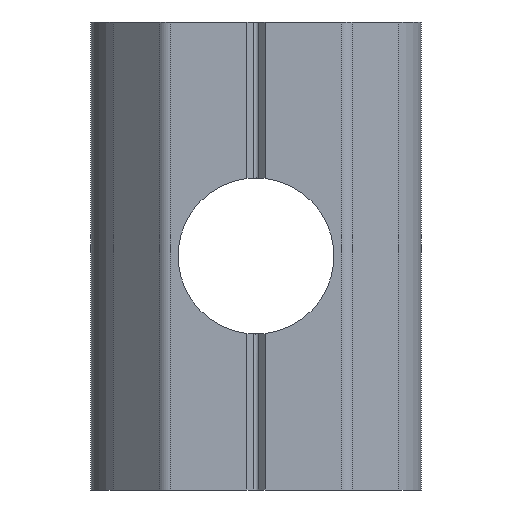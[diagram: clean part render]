
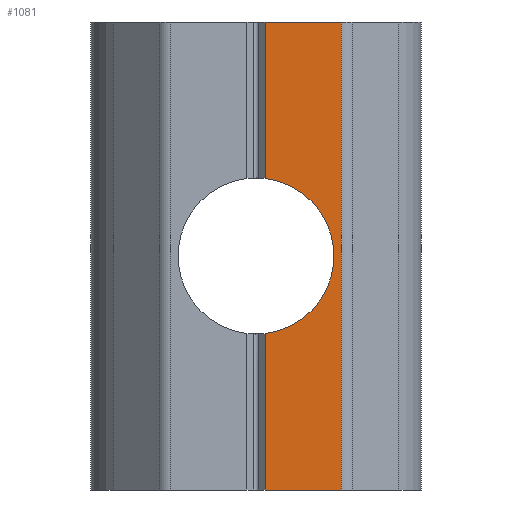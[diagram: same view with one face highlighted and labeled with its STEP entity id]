
A CAD part, front view. The second image highlights one B-rep face of the part: STEP entity #1081.
In plain terms, the highlighted planar face has unit normal (0, -1, 0).
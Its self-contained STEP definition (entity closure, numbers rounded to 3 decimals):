
#28 = LINE ( 'NONE', #1379, #950 ) ;
#35 = DIRECTION ( 'NONE',  ( 0., 0., -1. ) ) ;
#45 = CIRCLE ( 'NONE', #983, 2.5 ) ;
#51 = DIRECTION ( 'NONE',  ( 0., -1., 0. ) ) ;
#83 = EDGE_CURVE ( 'NONE', #115, #169, #757, .T. ) ;
#97 = VECTOR ( 'NONE', #957, 1000. ) ;
#115 = VERTEX_POINT ( 'NONE', #1304 ) ;
#169 = VERTEX_POINT ( 'NONE', #353 ) ;
#211 = LINE ( 'NONE', #796, #512 ) ;
#256 = CARTESIAN_POINT ( 'NONE',  ( 0.291, 0., 16. ) ) ;
#280 = VERTEX_POINT ( 'NONE', #256 ) ;
#318 = VERTEX_POINT ( 'NONE', #1109 ) ;
#330 = DIRECTION ( 'NONE',  ( 0., 0., -1. ) ) ;
#351 = EDGE_CURVE ( 'NONE', #115, #318, #45, .T. ) ;
#353 = CARTESIAN_POINT ( 'NONE',  ( 0.291, 0., 1. ) ) ;
#388 = ORIENTED_EDGE ( 'NONE', *, *, #807, .T. ) ;
#419 = VECTOR ( 'NONE', #330, 1000. ) ;
#452 = EDGE_CURVE ( 'NONE', #169, #976, #1101, .T. ) ;
#464 = LINE ( 'NONE', #1260, #419 ) ;
#512 = VECTOR ( 'NONE', #1492, 1000. ) ;
#521 = AXIS2_PLACEMENT_3D ( 'NONE', #781, #51, #904 ) ;
#570 = EDGE_CURVE ( 'NONE', #280, #1335, #28, .T. ) ;
#651 = ORIENTED_EDGE ( 'NONE', *, *, #452, .T. ) ;
#728 = FACE_OUTER_BOUND ( 'NONE', #1364, .T. ) ;
#729 = ORIENTED_EDGE ( 'NONE', *, *, #570, .F. ) ;
#757 = LINE ( 'NONE', #1527, #97 ) ;
#764 = DIRECTION ( 'NONE',  ( 0., -1., 0. ) ) ;
#781 = CARTESIAN_POINT ( 'NONE',  ( -2.936, 0., 1. ) ) ;
#796 = CARTESIAN_POINT ( 'NONE',  ( 2.728, 0., 1. ) ) ;
#797 = VECTOR ( 'NONE', #878, 1000. ) ;
#807 = EDGE_CURVE ( 'NONE', #976, #1335, #211, .T. ) ;
#822 = ORIENTED_EDGE ( 'NONE', *, *, #1270, .T. ) ;
#878 = DIRECTION ( 'NONE',  ( 1., 0., 0. ) ) ;
#893 = ORIENTED_EDGE ( 'NONE', *, *, #351, .F. ) ;
#904 = DIRECTION ( 'NONE',  ( 0., 0., -1. ) ) ;
#950 = VECTOR ( 'NONE', #1470, 1000. ) ;
#957 = DIRECTION ( 'NONE',  ( 0., 0., -1. ) ) ;
#976 = VERTEX_POINT ( 'NONE', #1192 ) ;
#983 = AXIS2_PLACEMENT_3D ( 'NONE', #1460, #764, #35 ) ;
#1024 = CARTESIAN_POINT ( 'NONE',  ( -2.936, 0., 1. ) ) ;
#1055 = CARTESIAN_POINT ( 'NONE',  ( 2.728, 0., 16. ) ) ;
#1081 = ADVANCED_FACE ( 'NONE', ( #728 ), #1205, .T. ) ;
#1101 = LINE ( 'NONE', #1024, #797 ) ;
#1109 = CARTESIAN_POINT ( 'NONE',  ( 0.291, 0., 10.983 ) ) ;
#1192 = CARTESIAN_POINT ( 'NONE',  ( 2.728, 0., 1. ) ) ;
#1205 = PLANE ( 'NONE',  #521 ) ;
#1260 = CARTESIAN_POINT ( 'NONE',  ( 0.291, 0., 16. ) ) ;
#1270 = EDGE_CURVE ( 'NONE', #280, #318, #464, .T. ) ;
#1304 = CARTESIAN_POINT ( 'NONE',  ( 0.291, 0., 6.017 ) ) ;
#1335 = VERTEX_POINT ( 'NONE', #1055 ) ;
#1364 = EDGE_LOOP ( 'NONE', ( #651, #388, #729, #822, #893, #1507 ) ) ;
#1379 = CARTESIAN_POINT ( 'NONE',  ( -2.936, 0., 16. ) ) ;
#1460 = CARTESIAN_POINT ( 'NONE',  ( 0., 0., 8.5 ) ) ;
#1470 = DIRECTION ( 'NONE',  ( 1., 0., 0. ) ) ;
#1492 = DIRECTION ( 'NONE',  ( 0., 0., 1. ) ) ;
#1507 = ORIENTED_EDGE ( 'NONE', *, *, #83, .T. ) ;
#1527 = CARTESIAN_POINT ( 'NONE',  ( 0.291, 0., 16. ) ) ;
